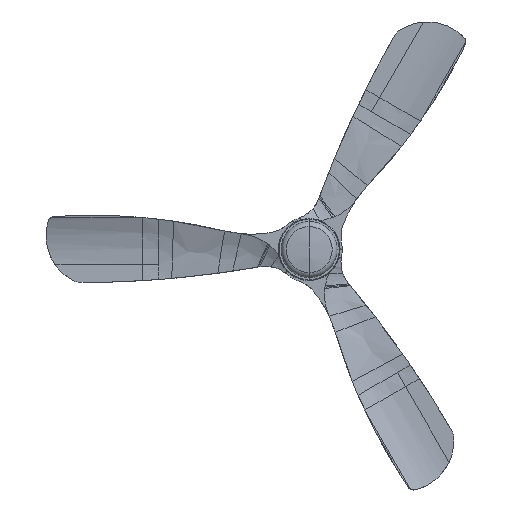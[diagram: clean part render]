
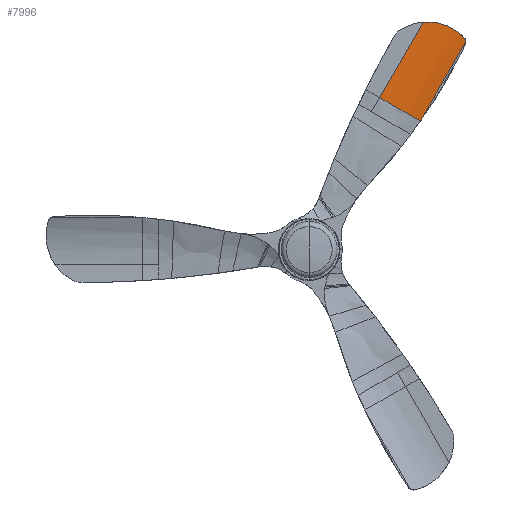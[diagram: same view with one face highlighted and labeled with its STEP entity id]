
A CAD part, top view. The second image highlights one B-rep face of the part: STEP entity #7996.
In plain terms, the highlighted cylindrical face has radius 264.109 mm (diameter 528.218 mm), a partial arc.
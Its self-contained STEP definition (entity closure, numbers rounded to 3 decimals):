
#413=LINE('',#14661,#795);
#414=LINE('',#14684,#796);
#795=VECTOR('',#9431,1.);
#796=VECTOR('',#9434,1.);
#1150=CYLINDRICAL_SURFACE('',#8501,264.109);
#1688=FACE_OUTER_BOUND('',#2173,.T.);
#2173=EDGE_LOOP('',(#5924,#5925,#5926,#5927,#5928));
#2693=B_SPLINE_CURVE_WITH_KNOTS('',3,(#13939,#13940,#13941,#13942,#13943,
#13944,#13945,#13946,#13947,#13948,#13949,#13950,#13951,#13952,#13953,#13954,
#13955,#13956,#13957),.UNSPECIFIED.,.F.,.F.,(4,1,1,1,1,1,1,1,1,1,1,1,1,
1,1,1,4),(0.,0.063,0.125,0.188,0.25,0.313,0.375,0.438,0.5,0.563,0.625,
0.688,0.75,0.813,0.875,0.938,1.),.UNSPECIFIED.);
#2730=B_SPLINE_CURVE_WITH_KNOTS('',3,(#14627,#14628,#14629,#14630,#14631,
#14632,#14633,#14634,#14635,#14636,#14637,#14638),.UNSPECIFIED.,.F.,.F.,
(4,2,2,2,2,4),(8.153,8.458,11.277,14.371,
17.466,18.957),.UNSPECIFIED.);
#2733=B_SPLINE_CURVE_WITH_KNOTS('',3,(#14664,#14665,#14666,#14667,#14668,
#14669,#14670,#14671,#14672,#14673,#14674,#14675,#14676,#14677,#14678,#14679,
#14680,#14681,#14682,#14683),.UNSPECIFIED.,.F.,.F.,(4,2,2,2,2,2,2,2,2,4),
(364.175,366.134,381.705,397.275,412.846,
428.417,443.988,459.559,475.129,478.605),
 .UNSPECIFIED.);
#3340=VERTEX_POINT('',#13902);
#3342=VERTEX_POINT('',#13938);
#3375=VERTEX_POINT('',#14613);
#3376=VERTEX_POINT('',#14625);
#3379=VERTEX_POINT('',#14663);
#4264=EDGE_CURVE('',#3342,#3340,#2693,.T.);
#4320=EDGE_CURVE('',#3375,#3376,#2730,.T.);
#4325=EDGE_CURVE('',#3340,#3375,#413,.T.);
#4326=EDGE_CURVE('',#3379,#3376,#2733,.T.);
#4327=EDGE_CURVE('',#3342,#3379,#414,.T.);
#5924=ORIENTED_EDGE('',*,*,#4325,.T.);
#5925=ORIENTED_EDGE('',*,*,#4320,.T.);
#5926=ORIENTED_EDGE('',*,*,#4326,.F.);
#5927=ORIENTED_EDGE('',*,*,#4327,.F.);
#5928=ORIENTED_EDGE('',*,*,#4264,.T.);
#7996=ADVANCED_FACE('',(#1688),#1150,.F.);
#8501=AXIS2_PLACEMENT_3D('',#14662,#9432,#9433);
#9431=DIRECTION('',(0.5,0.866,0.));
#9432=DIRECTION('center_axis',(0.5,0.866,0.));
#9433=DIRECTION('ref_axis',(-0.866,0.5,0.));
#9434=DIRECTION('',(0.5,0.866,0.));
#13902=CARTESIAN_POINT('',(278.749,322.416,334.796));
#13938=CARTESIAN_POINT('',(176.864,381.234,309.799));
#13939=CARTESIAN_POINT('Ctrl Pts',(176.867,381.238,309.799));
#13940=CARTESIAN_POINT('Ctrl Pts',(179.055,379.974,309.748));
#13941=CARTESIAN_POINT('Ctrl Pts',(183.434,377.446,309.718));
#13942=CARTESIAN_POINT('Ctrl Pts',(190.001,373.656,309.89));
#13943=CARTESIAN_POINT('Ctrl Pts',(196.56,369.869,310.28));
#13944=CARTESIAN_POINT('Ctrl Pts',(203.108,366.089,310.887));
#13945=CARTESIAN_POINT('Ctrl Pts',(209.637,362.32,311.711));
#13946=CARTESIAN_POINT('Ctrl Pts',(216.143,358.564,312.752));
#13947=CARTESIAN_POINT('Ctrl Pts',(222.621,354.824,314.007));
#13948=CARTESIAN_POINT('Ctrl Pts',(229.064,351.104,315.477));
#13949=CARTESIAN_POINT('Ctrl Pts',(235.469,347.406,317.159));
#13950=CARTESIAN_POINT('Ctrl Pts',(241.829,343.734,319.054));
#13951=CARTESIAN_POINT('Ctrl Pts',(248.139,340.091,321.158));
#13952=CARTESIAN_POINT('Ctrl Pts',(254.394,336.479,323.47));
#13953=CARTESIAN_POINT('Ctrl Pts',(260.589,332.902,325.99));
#13954=CARTESIAN_POINT('Ctrl Pts',(266.719,329.363,328.713));
#13955=CARTESIAN_POINT('Ctrl Pts',(272.779,325.864,331.638));
#13956=CARTESIAN_POINT('Ctrl Pts',(276.768,323.56,333.722));
#13957=CARTESIAN_POINT('Ctrl Pts',(278.75,322.416,334.796));
#14613=CARTESIAN_POINT('',(393.446,521.076,334.796));
#14625=CARTESIAN_POINT('',(389.469,530.691,331.092));
#14627=CARTESIAN_POINT('Ctrl Pts',(393.446,521.076,334.796));
#14628=CARTESIAN_POINT('Ctrl Pts',(393.442,521.18,334.77));
#14629=CARTESIAN_POINT('Ctrl Pts',(393.437,521.283,334.744));
#14630=CARTESIAN_POINT('Ctrl Pts',(393.375,522.339,334.471));
#14631=CARTESIAN_POINT('Ctrl Pts',(393.228,523.265,334.197));
#14632=CARTESIAN_POINT('Ctrl Pts',(392.774,525.087,333.597));
#14633=CARTESIAN_POINT('Ctrl Pts',(392.435,526.041,333.246));
#14634=CARTESIAN_POINT('Ctrl Pts',(391.563,527.873,332.497));
#14635=CARTESIAN_POINT('Ctrl Pts',(391.029,528.752,332.097));
#14636=CARTESIAN_POINT('Ctrl Pts',(390.117,529.956,331.492));
#14637=CARTESIAN_POINT('Ctrl Pts',(389.801,530.332,331.292));
#14638=CARTESIAN_POINT('Ctrl Pts',(389.469,530.691,331.092));
#14661=CARTESIAN_POINT('',(278.75,322.416,334.796));
#14662=CARTESIAN_POINT('Origin',(338.221,649.969,573.854));
#14663=CARTESIAN_POINT('',(286.32,570.817,309.799));
#14664=CARTESIAN_POINT('Ctrl Pts',(286.32,570.817,309.799));
#14665=CARTESIAN_POINT('Ctrl Pts',(286.972,570.871,309.789));
#14666=CARTESIAN_POINT('Ctrl Pts',(287.624,570.919,309.779));
#14667=CARTESIAN_POINT('Ctrl Pts',(293.454,571.31,309.71));
#14668=CARTESIAN_POINT('Ctrl Pts',(298.705,571.34,309.752));
#14669=CARTESIAN_POINT('Ctrl Pts',(309.222,570.736,310.101));
#14670=CARTESIAN_POINT('Ctrl Pts',(314.489,570.103,310.409));
#14671=CARTESIAN_POINT('Ctrl Pts',(324.91,568.175,311.335));
#14672=CARTESIAN_POINT('Ctrl Pts',(330.066,566.881,311.953));
#14673=CARTESIAN_POINT('Ctrl Pts',(340.148,563.666,313.523));
#14674=CARTESIAN_POINT('Ctrl Pts',(345.075,561.744,314.475));
#14675=CARTESIAN_POINT('Ctrl Pts',(354.59,557.335,316.71));
#14676=CARTESIAN_POINT('Ctrl Pts',(359.189,554.843,317.996));
#14677=CARTESIAN_POINT('Ctrl Pts',(367.977,549.362,320.881));
#14678=CARTESIAN_POINT('Ctrl Pts',(372.165,546.373,322.479));
#14679=CARTESIAN_POINT('Ctrl Pts',(380.058,539.996,325.941));
#14680=CARTESIAN_POINT('Ctrl Pts',(383.764,536.607,327.804));
#14681=CARTESIAN_POINT('Ctrl Pts',(387.973,532.288,330.203));
#14682=CARTESIAN_POINT('Ctrl Pts',(388.728,531.493,330.645));
#14683=CARTESIAN_POINT('Ctrl Pts',(389.469,530.691,331.092));
#14684=CARTESIAN_POINT('',(176.865,381.235,309.799));
